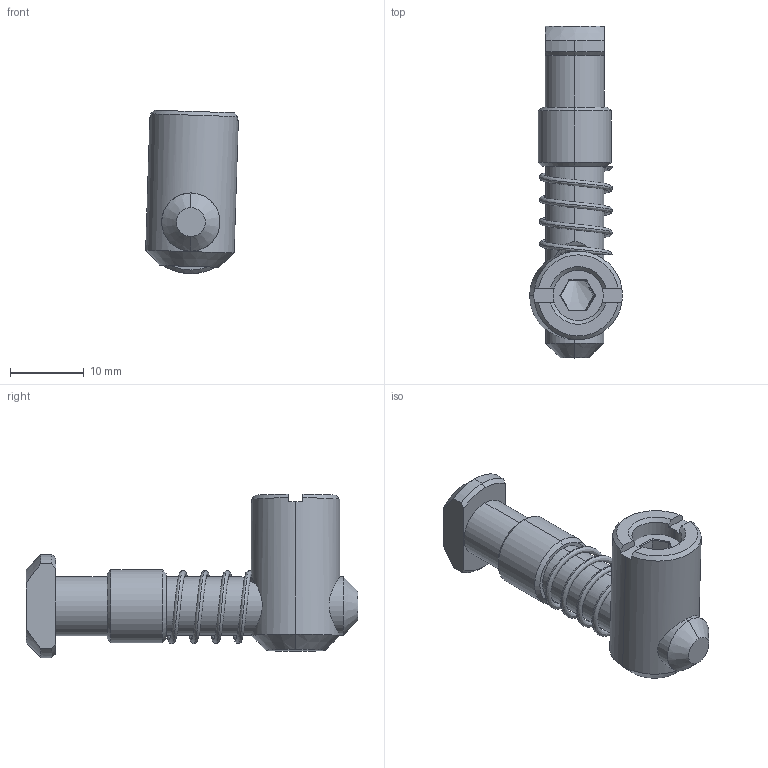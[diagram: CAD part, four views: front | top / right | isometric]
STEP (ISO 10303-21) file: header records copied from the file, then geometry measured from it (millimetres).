
FILE_DESCRIPTION (( 'STEP AP214' ), '1' );
FILE_NAME ('2.03.spsp.STEP', '2015-05-31T07:59:59', ( '' ), ( '' ), 'SwSTEP 2.0', 'SolidWorks 2015', '' );
FILE_SCHEMA (( 'AUTOMOTIVE_DESIGN' ));
Length unit declared in the file: millimetre
Products named in the file (1): 2.03.spsp
Bounding box: 12.56 x 45 x 22.16 mm (x, y, z)
Surface area: 3103.3 mm2 (no closed solid volume)
Topology: 0 solids, 4 shells, 69 faces, 174 edges, 110 vertices
Faces by surface type: plane 32, cone 20, cylinder 15, bspline 2
Entity records: 3465 total; most frequent: CARTESIAN_POINT 1806, ORIENTED_EDGE 336, DIRECTION 329, EDGE_CURVE 172, AXIS2_PLACEMENT_3D 123, VERTEX_POINT 110, LINE 83, VECTOR 83
